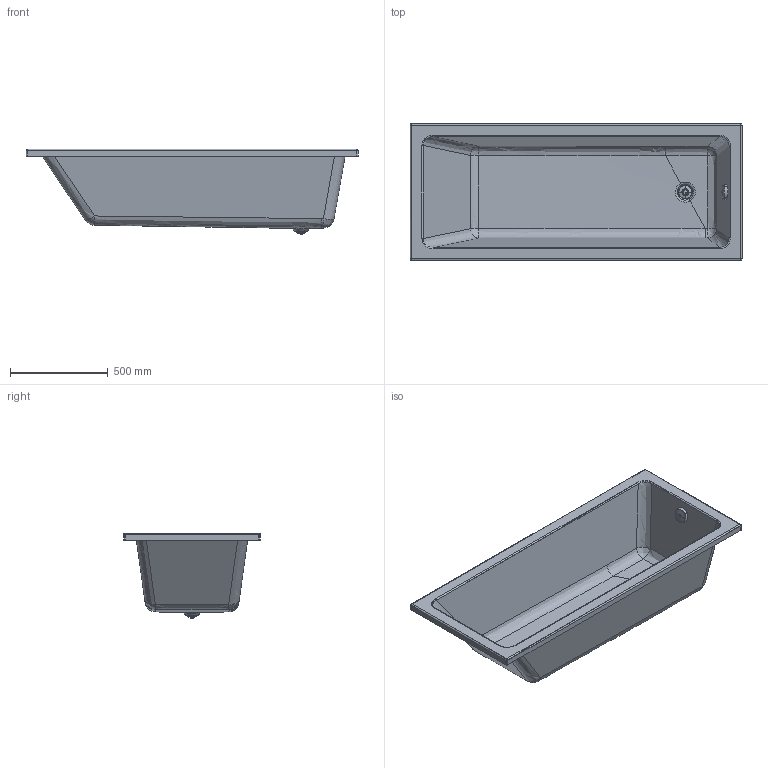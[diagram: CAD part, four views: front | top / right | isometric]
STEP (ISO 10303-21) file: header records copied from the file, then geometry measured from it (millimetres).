
FILE_DESCRIPTION(/* description */ (''),/* implementation_level */ '2;1');
FILE_NAME(/* name */ '700489',/* time_stamp */ '2021-07-29T11:38:48+02:00',/* author */ (''),/* organization */ (''),/* preprocessor_version */ 'ST-DEVELOPER v15',/* originating_system */ '',/* authorisation */ '');
FILE_SCHEMA (('AUTOMOTIVE_DESIGN'));
Length unit declared in the file: millimetre
Products named in the file (1): Document
Bounding box: 1700 x 700 x 437.52 mm (x, y, z)
Volume: 12417366 mm3; surface area: 5010152.9 mm2
Topology: 4 solids, 4 shells, 402 faces, 1003 edges, 578 vertices
Faces by surface type: bspline 301, plane 101
Entity records: 24152 total; most frequent: CARTESIAN_POINT 18436, ORIENTED_EDGE 1974, EDGE_CURVE 987, VERTEX_POINT 578, B_SPLINE_CURVE_WITH_KNOTS 564, EDGE_LOOP 419, ADVANCED_FACE 402, FACE_OUTER_BOUND 402
